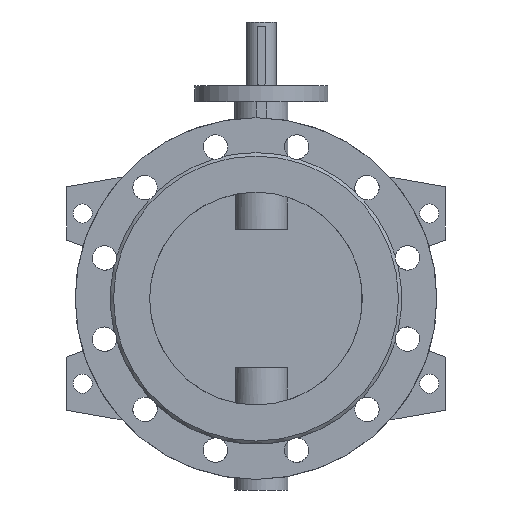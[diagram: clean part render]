
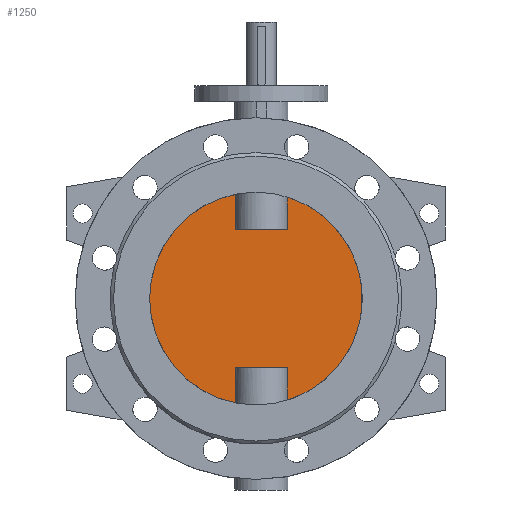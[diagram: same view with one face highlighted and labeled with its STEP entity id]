
A CAD part, front view. The second image highlights one B-rep face of the part: STEP entity #1250.
In plain terms, the highlighted planar face has unit normal (0, -1, 0).
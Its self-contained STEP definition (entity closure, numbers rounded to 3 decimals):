
#1250=ADVANCED_FACE('',(#2544),#2546,.F.);
#2544=FACE_BOUND('',#2545,.T.);
#2545=EDGE_LOOP('',(#3453,#3454,#3455,#3456,#3457,#3458,#3459,#3460));
#2546=PLANE('',#2547);
#2547=AXIS2_PLACEMENT_3D('',#2548,#2549,#2550);
#2548=CARTESIAN_POINT('',(0.,-5.,0.));
#2549=DIRECTION('',(0.,1.,0.));
#2550=DIRECTION('',(1.,0.,0.));
#3453=ORIENTED_EDGE('',*,*,#3918,.T.);
#3454=ORIENTED_EDGE('',*,*,#3924,.T.);
#3455=ORIENTED_EDGE('',*,*,#3925,.T.);
#3456=ORIENTED_EDGE('',*,*,#3926,.T.);
#3457=ORIENTED_EDGE('',*,*,#3920,.T.);
#3458=ORIENTED_EDGE('',*,*,#3927,.T.);
#3459=ORIENTED_EDGE('',*,*,#3928,.T.);
#3460=ORIENTED_EDGE('',*,*,#3929,.T.);
#3918=EDGE_CURVE('',#4637,#4638,#4639,.F.);
#3920=EDGE_CURVE('',#4642,#4640,#4643,.F.);
#3924=EDGE_CURVE('',#4638,#4649,#4650,.T.);
#3925=EDGE_CURVE('',#4649,#4651,#4652,.F.);
#3926=EDGE_CURVE('',#4651,#4642,#4653,.F.);
#3927=EDGE_CURVE('',#4640,#4654,#4655,.F.);
#3928=EDGE_CURVE('',#4654,#4656,#4657,.F.);
#3929=EDGE_CURVE('',#4656,#4637,#4658,.T.);
#4637=VERTEX_POINT('',#8338);
#4638=VERTEX_POINT('',#8339);
#4639=CIRCLE('',#8340,100.);
#4640=VERTEX_POINT('',#8344);
#4642=VERTEX_POINT('',#8440);
#4643=CIRCLE('',#8441,100.);
#4649=VERTEX_POINT('',#8558);
#4650=LINE('',#8559,#8560);
#4651=VERTEX_POINT('',#8562);
#4652=LINE('',#8563,#8564);
#4653=LINE('',#8566,#8567);
#4654=VERTEX_POINT('',#8569);
#4655=LINE('',#8570,#8571);
#4656=VERTEX_POINT('',#8573);
#4657=LINE('',#8574,#8575);
#4658=LINE('',#8577,#8578);
#8338=CARTESIAN_POINT('',(29.495,-5.,-95.551));
#8339=CARTESIAN_POINT('',(29.495,-5.,95.551));
#8340=AXIS2_PLACEMENT_3D('',#8341,#8342,#8343);
#8341=CARTESIAN_POINT('',(0.,-5.,0.));
#8342=DIRECTION('',(0.,1.,0.));
#8343=DIRECTION('',(0.295,0.,0.956));
#8344=CARTESIAN_POINT('',(-19.495,-5.,-98.081));
#8440=CARTESIAN_POINT('',(-19.495,-5.,98.081));
#8441=AXIS2_PLACEMENT_3D('',#8442,#8443,#8444);
#8442=CARTESIAN_POINT('',(0.,-5.,0.));
#8443=DIRECTION('',(0.,1.,0.));
#8444=DIRECTION('',(-0.195,0.,-0.981));
#8558=CARTESIAN_POINT('',(29.495,-5.,65.));
#8559=CARTESIAN_POINT('',(29.495,-5.,95.551));
#8560=VECTOR('',#8561,1.);
#8561=DIRECTION('',(0.,0.,-1.));
#8562=CARTESIAN_POINT('',(-19.495,-5.,65.));
#8563=CARTESIAN_POINT('',(-19.495,-5.,65.));
#8564=VECTOR('',#8565,1.);
#8565=DIRECTION('',(1.,0.,0.));
#8566=CARTESIAN_POINT('',(-19.495,-5.,98.081));
#8567=VECTOR('',#8568,1.);
#8568=DIRECTION('',(0.,0.,-1.));
#8569=CARTESIAN_POINT('',(-19.495,-5.,-65.));
#8570=CARTESIAN_POINT('',(-19.495,-5.,-65.));
#8571=VECTOR('',#8572,1.);
#8572=DIRECTION('',(0.,0.,-1.));
#8573=CARTESIAN_POINT('',(29.495,-5.,-65.));
#8574=CARTESIAN_POINT('',(29.495,-5.,-65.));
#8575=VECTOR('',#8576,1.);
#8576=DIRECTION('',(-1.,0.,0.));
#8577=CARTESIAN_POINT('',(29.495,-5.,-65.));
#8578=VECTOR('',#8579,1.);
#8579=DIRECTION('',(0.,0.,-1.));
